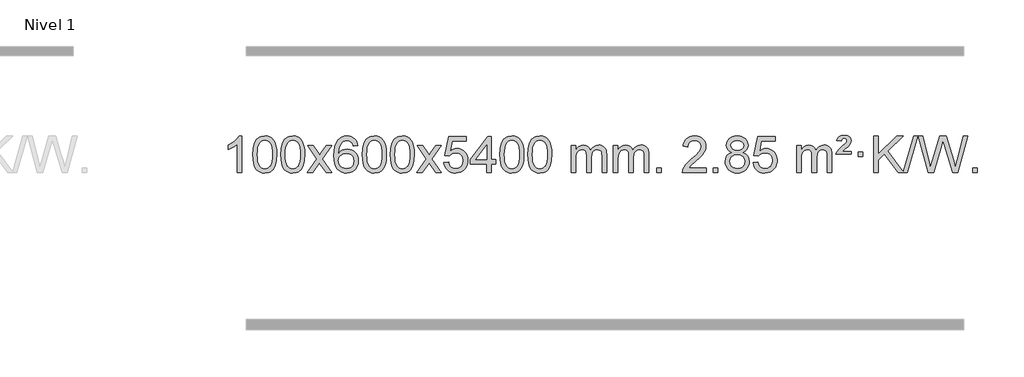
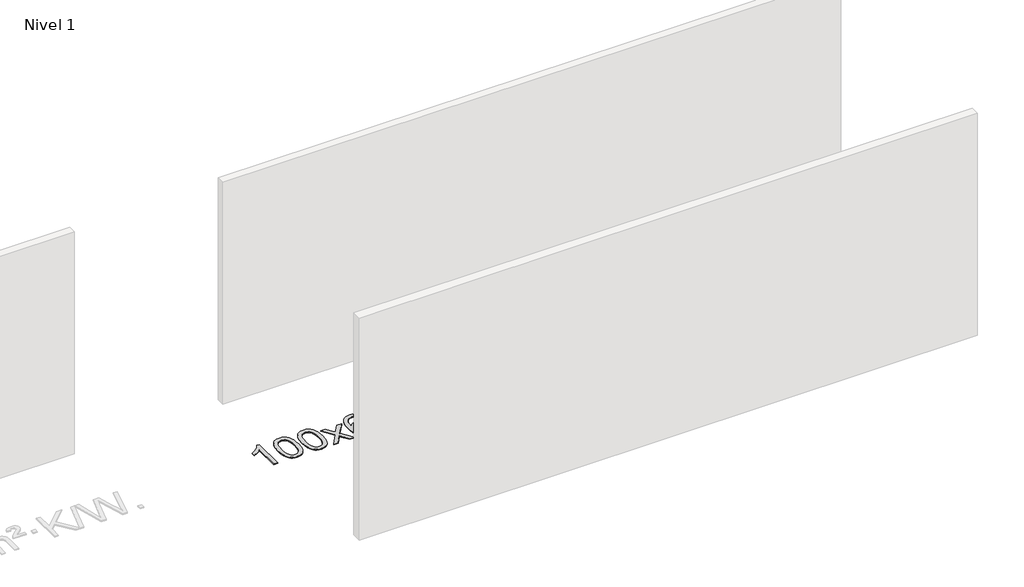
# One storey, part 7 of 12: 1 proxy.
"""IFC4 building model written with IfcOpenShell, lengths in millimetres."""

from ifc_helpers import new_model, si_unit, origin, origin_with_axes, place, context, project, spatial, polyline, outline, extrude, element, save

model = new_model("IFC4")

# Units and contexts
model_context = context("Model", 3, world=origin())
ifc_project = project(units=[si_unit("LENGTHUNIT", "METRE", prefix="MILLI")], contexts=[model_context])

# Site, building, storey
site = spatial("IfcSite", under=ifc_project)
building = spatial("IfcBuilding", under=site)
storey = spatial("IfcBuildingStorey", under=building, Name="Nivel 1", Elevation=0.0)

# Proxy
placement = place(None, origin())
element("IfcBuildingElementProxy", 1, Name="Texto de modelo 1", ObjectType="Texto de modelo 1", at=placement, inside=storey, context=model_context, shape_type="SweptSolid", body=[
    extrude(outline(polyline([(-1875.4615788, -9399.579453), (-1925.6897338, -9399.579453), (-1925.6897338, -9086.4382987), (-1946.6590076, -9103.3976587), (-1973.2691385, -9120.3324932), (-2026.146044, -9145.6918254), (-2026.146044, -9098.2105225), (-1986.6968314, -9076.7507395), (-1952.520594, -9051.219729), (-1925.5793692, -9024.0700378), (-1907.8351943, -8997.7542124), (-1875.4615788, -8997.7542124), (-1875.4615788, -9399.579453)])), origin_with_axes(), (0.0, 0.0, 1.0), 10.0),
    extrude(outline(polyline([(-1756.1697105, -9201.9041943), (-1752.4786278, -9137.5861588), (-1741.4053797, -9086.2911459), (-1723.0603309, -9047.2343407), (-1711.2022679, -9032.0009605), (-1697.5538459, -9019.6309284), (-1682.0690796, -9010.0598651), (-1664.7019837, -9003.2233914), (-1624.3208034, -8997.7542124), (-1593.3696649, -9000.991574), (-1565.6558879, -9010.7036586), (-1542.4793222, -9026.5103217), (-1525.1398175, -9048.0314184), (-1512.0432185, -9075.0830078), (-1501.5953698, -9107.4811488), (-1494.7527647, -9148.6226186), (-1492.4718963, -9201.9041943), (-1496.1261908, -9265.8543477), (-1507.0890743, -9317.0267333), (-1525.3237585, -9356.1203266), (-1537.1542303, -9371.3996922), (-1550.7934553, -9383.8341036), (-1566.2966157, -9393.4695462), (-1583.7188939, -9400.3520052), (-1624.3208034, -9405.8579724), (-1651.9855294, -9403.4667394), (-1676.5109958, -9396.2930405), (-1697.8972024, -9384.3368757), (-1716.1441494, -9367.5982449), (-1733.6553324, -9337.3399508), (-1746.1633202, -9299.6381776), (-1753.6681129, -9254.4929255), (-1756.1697105, -9201.9041943)]), holes=[polyline([(-1705.9415554, -9201.8060924), (-1704.4700274, -9245.4706195), (-1700.0554435, -9280.8148822), (-1692.6978036, -9307.8388804), (-1682.3971077, -9326.5426142), (-1669.9381708, -9339.2682656), (-1656.1058078, -9348.3580165), (-1640.9000186, -9353.8118671), (-1624.3208034, -9355.6298173), (-1607.7415881, -9353.8057357), (-1592.535799, -9348.3334911), (-1578.703436, -9339.2130833), (-1566.2444991, -9326.4445124), (-1555.9438032, -9307.7101217), (-1548.5861633, -9280.6922549), (-1544.1715794, -9245.3909118), (-1542.7000514, -9201.8060924), (-1544.1225284, -9159.2973278), (-1548.3899596, -9124.5753989), (-1555.5023448, -9097.6403055), (-1565.4596842, -9078.4920476), (-1577.7101546, -9065.1440625), (-1591.7019332, -9055.6097875), (-1607.4350198, -9049.8892225), (-1624.9094146, -9047.9823675), (-1641.4027907, -9049.6623619), (-1656.3510624, -9054.7023452), (-1669.7542298, -9063.1023175), (-1681.6122928, -9074.8622786), (-1692.2563452, -9095.708925), (-1699.8592397, -9123.8151094), (-1704.4209765, -9159.1808319), (-1705.9415554, -9201.8060924)])]), origin_with_axes(), (0.0, 0.0, 1.0), 10.0),
    extrude(outline(polyline([(-1448.5222606, -9201.9041943), (-1444.8311779, -9137.5861588), (-1433.7579299, -9086.2911459), (-1415.4128811, -9047.2343407), (-1403.5548181, -9032.0009605), (-1389.9063961, -9019.6309284), (-1374.4216298, -9010.0598651), (-1357.0545339, -9003.2233914), (-1316.6733536, -8997.7542124), (-1285.722215, -9000.991574), (-1258.0084381, -9010.7036586), (-1234.8318724, -9026.5103217), (-1217.4923677, -9048.0314184), (-1204.3957686, -9075.0830078), (-1193.94792, -9107.4811488), (-1187.1053149, -9148.6226186), (-1184.8244465, -9201.9041943), (-1188.478741, -9265.8543477), (-1199.4416244, -9317.0267333), (-1217.6763087, -9356.1203266), (-1229.5067805, -9371.3996922), (-1243.1460055, -9383.8341036), (-1258.6491659, -9393.4695462), (-1276.071444, -9400.3520052), (-1316.6733536, -9405.8579724), (-1344.3380796, -9403.4667394), (-1368.8635459, -9396.2930405), (-1390.2497526, -9384.3368757), (-1408.4966996, -9367.5982449), (-1426.0078825, -9337.3399508), (-1438.5158704, -9299.6381776), (-1446.0206631, -9254.4929255), (-1448.5222606, -9201.9041943)]), holes=[polyline([(-1398.2941056, -9201.8060924), (-1396.8225776, -9245.4706195), (-1392.4079936, -9280.8148822), (-1385.0503537, -9307.8388804), (-1374.7496579, -9326.5426142), (-1362.290721, -9339.2682656), (-1348.4583579, -9348.3580165), (-1333.2525688, -9353.8118671), (-1316.6733536, -9355.6298173), (-1300.0941383, -9353.8057357), (-1284.8883492, -9348.3334911), (-1271.0559862, -9339.2130833), (-1258.5970493, -9326.4445124), (-1248.2963534, -9307.7101217), (-1240.9387135, -9280.6922549), (-1236.5241295, -9245.3909118), (-1235.0526016, -9201.8060924), (-1236.4750786, -9159.2973278), (-1240.7425098, -9124.5753989), (-1247.854895, -9097.6403055), (-1257.8122343, -9078.4920476), (-1270.0627048, -9065.1440625), (-1284.0544833, -9055.6097875), (-1299.78757, -9049.8892225), (-1317.2619648, -9047.9823675), (-1333.7553409, -9049.6623619), (-1348.7036126, -9054.7023452), (-1362.10678, -9063.1023175), (-1373.9648429, -9074.8622786), (-1384.6088953, -9095.708925), (-1392.2117899, -9123.8151094), (-1396.7735266, -9159.1808319), (-1398.2941056, -9201.8060924)])]), origin_with_axes(), (0.0, 0.0, 1.0), 10.0),
    extrude(outline(polyline([(-1159.7103689, -9399.579453), (-1052.3869282, -9251.2494325), (-1153.4318496, -9104.4890419), (-1093.0011005, -9104.4890419), (-1044.2444734, -9175.122385), (-1021.4848406, -9208.4770192), (-1001.7663657, -9181.2047007), (-946.2407099, -9104.4890419), (-885.8099608, -9104.4890419), (-991.9561791, -9251.2494325), (-889.7340354, -9399.579453), (-950.1647845, -9399.579453), (-1011.6746541, -9310.4048574), (-1022.9563686, -9294.1199477), (-1099.2796199, -9399.579453), (-1159.7103689, -9399.579453)])), origin_with_axes(), (0.0, 0.0, 1.0), 10.0),
    extrude(outline(polyline([(-600.9221437, -9104.4890419), (-651.1502988, -9110.7675613), (-659.2437027, -9085.874213), (-670.1820607, -9068.8780648), (-692.9662189, -9053.2062918), (-720.5083176, -9047.9823675), (-743.8565616, -9051.0235253), (-765.8313794, -9060.1469988), (-784.7037258, -9079.3627017), (-800.1179814, -9105.8134171), (-810.5290419, -9143.227016), (-814.3918028, -9195.3313693), (-794.2441322, -9171.8237098), (-770.0988106, -9155.2567573), (-743.3047386, -9145.434308), (-715.2108169, -9142.1601582), (-691.077758, -9144.398107), (-668.8086346, -9151.1119534), (-648.4034466, -9162.3016975), (-629.862194, -9177.9673391), (-614.4540698, -9197.1769106), (-603.4482668, -9218.9984443), (-596.844785, -9243.4319401), (-594.6436244, -9270.4773982), (-598.7884282, -9306.4439945), (-611.2228396, -9339.786366), (-630.9167891, -9368.0642287), (-656.840207, -9388.8372987), (-687.815871, -9401.602804), (-722.6665587, -9405.8579724), (-752.6090874, -9403.0375437), (-779.6514797, -9394.5762579), (-803.7937357, -9380.4741147), (-825.0358552, -9360.7311143), (-842.3539001, -9334.5133908), (-854.7239322, -9300.9870783), (-862.1459515, -9260.1521768), (-864.6199579, -9212.0086864), (-861.8731057, -9158.0342663), (-853.632549, -9111.9693092), (-839.8982878, -9073.8138149), (-820.6703222, -9043.5677835), (-799.8298072, -9023.5243462), (-775.6660915, -9009.2076052), (-748.179175, -9000.6175606), (-717.3690579, -8997.7542124), (-694.2354118, -8999.5261773), (-673.2967949, -9004.8420722), (-654.5532073, -9013.7018969), (-638.0046489, -9026.1056515), (-624.0987094, -9041.6364031), (-613.2829788, -9059.8772186), (-605.5574569, -9080.8280983), (-600.9221437, -9104.4890419)]), holes=[polyline([(-814.3918028, -9269.6925832), (-811.485535, -9291.9494439), (-802.7667318, -9313.2007605), (-789.2286743, -9331.472233), (-771.8646442, -9344.7895612), (-750.9076332, -9352.9197533), (-726.5906333, -9355.6298173), (-693.4444655, -9350.0134855), (-679.5293291, -9342.9930708), (-667.3861575, -9333.1644901), (-657.5361171, -9320.9262824), (-650.500374, -9306.6769865), (-644.8717794, -9272.1451299), (-650.4267976, -9238.9989621), (-657.3705702, -9225.3781312), (-667.0918519, -9213.725469), (-679.2718117, -9204.3904634), (-693.5916183, -9197.7226022), (-728.6507725, -9192.3883133), (-761.7478893, -9197.7226022), (-789.4248781, -9213.725469), (-800.3479076, -9225.2248471), (-808.1500716, -9238.3858254), (-812.83137, -9253.2084042), (-814.3918028, -9269.6925832)])]), origin_with_axes(), (0.0, 0.0, 1.0), 10.0),
    extrude(outline(polyline([(-550.6939887, -9201.9041943), (-547.002906, -9137.5861588), (-535.9296579, -9086.2911459), (-517.5846091, -9047.2343407), (-505.7265461, -9032.0009605), (-492.0781241, -9019.6309284), (-476.5933578, -9010.0598651), (-459.2262619, -9003.2233914), (-418.8450816, -8997.7542124), (-387.8939431, -9000.991574), (-360.1801661, -9010.7036586), (-337.0036004, -9026.5103217), (-319.6640957, -9048.0314184), (-306.5674967, -9075.0830078), (-296.119648, -9107.4811488), (-289.2770429, -9148.6226186), (-286.9961745, -9201.9041943), (-290.650469, -9265.8543477), (-301.6133525, -9317.0267333), (-319.8480367, -9356.1203266), (-331.6785085, -9371.3996922), (-345.3177335, -9383.8341036), (-360.8208939, -9393.4695462), (-378.2431721, -9400.3520052), (-418.8450816, -9405.8579724), (-446.5098076, -9403.4667394), (-471.035274, -9396.2930405), (-492.4214806, -9384.3368757), (-510.6684276, -9367.5982449), (-528.1796106, -9337.3399508), (-540.6875984, -9299.6381776), (-548.1923911, -9254.4929255), (-550.6939887, -9201.9041943)]), holes=[polyline([(-500.4658336, -9201.8060924), (-498.9943056, -9245.4706195), (-494.5797217, -9280.8148822), (-487.2220818, -9307.8388804), (-476.9213859, -9326.5426142), (-464.462449, -9339.2682656), (-450.630086, -9348.3580165), (-435.4242968, -9353.8118671), (-418.8450816, -9355.6298173), (-402.2658663, -9353.8057357), (-387.0600772, -9348.3334911), (-373.2277142, -9339.2130833), (-360.7687773, -9326.4445124), (-350.4680814, -9307.7101217), (-343.1104415, -9280.6922549), (-338.6958576, -9245.3909118), (-337.2243296, -9201.8060924), (-338.6468066, -9159.2973278), (-342.9142378, -9124.5753989), (-350.026623, -9097.6403055), (-359.9839624, -9078.4920476), (-372.2344328, -9065.1440625), (-386.2262114, -9055.6097875), (-401.959298, -9049.8892225), (-419.4336928, -9047.9823675), (-435.9270689, -9049.6623619), (-450.8753406, -9054.7023452), (-464.278508, -9063.1023175), (-476.136571, -9074.8622786), (-486.7806234, -9095.708925), (-494.3835179, -9123.8151094), (-498.9452547, -9159.1808319), (-500.4658336, -9201.8060924)])]), origin_with_axes(), (0.0, 0.0, 1.0), 10.0),
    extrude(outline(polyline([(-243.0465388, -9201.9041943), (-239.3554561, -9137.5861588), (-228.2822081, -9086.2911459), (-209.9371593, -9047.2343407), (-198.0790963, -9032.0009605), (-184.4306743, -9019.6309284), (-168.945908, -9010.0598651), (-151.5788121, -9003.2233914), (-111.1976318, -8997.7542124), (-80.2464932, -9000.991574), (-52.5327163, -9010.7036586), (-29.3561506, -9026.5103217), (-12.0166459, -9048.0314184), (1.0799532, -9075.0830078), (11.5278018, -9107.4811488), (18.3704069, -9148.6226186), (20.6512753, -9201.9041943), (16.9969808, -9265.8543477), (6.0340974, -9317.0267333), (-12.2005869, -9356.1203266), (-24.0310587, -9371.3996922), (-37.6702837, -9383.8341036), (-53.1734441, -9393.4695462), (-70.5957222, -9400.3520052), (-111.1976318, -9405.8579724), (-138.8623578, -9403.4667394), (-163.3878241, -9396.2930405), (-184.7740308, -9384.3368757), (-203.0209778, -9367.5982449), (-220.5321607, -9337.3399508), (-233.0401486, -9299.6381776), (-240.5449413, -9254.4929255), (-243.0465388, -9201.9041943)]), holes=[polyline([(-192.8183838, -9201.8060924), (-191.3468558, -9245.4706195), (-186.9322718, -9280.8148822), (-179.5746319, -9307.8388804), (-169.2739361, -9326.5426142), (-156.8149992, -9339.2682656), (-142.9826361, -9348.3580165), (-127.776847, -9353.8118671), (-111.1976318, -9355.6298173), (-94.6184165, -9353.8057357), (-79.4126274, -9348.3334911), (-65.5802644, -9339.2130833), (-53.1213275, -9326.4445124), (-42.8206316, -9307.7101217), (-35.4629917, -9280.6922549), (-31.0484077, -9245.3909118), (-29.5768798, -9201.8060924), (-30.9993568, -9159.2973278), (-35.266788, -9124.5753989), (-42.3791732, -9097.6403055), (-52.3365125, -9078.4920476), (-64.586983, -9065.1440625), (-78.5787615, -9055.6097875), (-94.3118482, -9049.8892225), (-111.786243, -9047.9823675), (-128.2796191, -9049.6623619), (-143.2278908, -9054.7023452), (-156.6310582, -9063.1023175), (-168.4891211, -9074.8622786), (-179.1331735, -9095.708925), (-186.7360681, -9123.8151094), (-191.2978048, -9159.1808319), (-192.8183838, -9201.8060924)])]), origin_with_axes(), (0.0, 0.0, 1.0), 10.0),
    extrude(outline(polyline([(45.7653528, -9399.579453), (153.0887936, -9251.2494325), (52.0438722, -9104.4890419), (112.4746213, -9104.4890419), (161.2312484, -9175.122385), (183.9908812, -9208.4770192), (203.7093561, -9181.2047007), (259.2350119, -9104.4890419), (319.665761, -9104.4890419), (213.5195426, -9251.2494325), (315.7416864, -9399.579453), (255.3109373, -9399.579453), (193.8010677, -9310.4048574), (182.5193532, -9294.1199477), (106.1961019, -9399.579453), (45.7653528, -9399.579453)])), origin_with_axes(), (0.0, 0.0, 1.0), 10.0),
    extrude(outline(polyline([(347.1342833, -9292.8446235), (397.3624384, -9286.5661041), (406.5840137, -9316.7201649), (422.6727196, -9338.3148381), (445.5549797, -9351.3010725), (475.1572176, -9355.6298173), (494.2870814, -9354.1245668), (511.1606022, -9349.6088153), (525.7777802, -9342.0825628), (538.1386152, -9331.5458094), (547.9671958, -9318.519721), (554.9876106, -9303.5254641), (560.6039424, -9267.6324441), (555.3432298, -9233.8363514), (548.7673392, -9219.9181493), (539.5610922, -9207.9865099), (527.6938322, -9198.4154467), (513.1349023, -9191.5789729), (475.9420325, -9186.1097939), (451.5759817, -9188.2925604), (431.8452441, -9194.8408599), (416.0876319, -9204.8717757), (403.6409578, -9217.5023908), (353.4128027, -9211.2238715), (397.3624384, -9004.0327318), (591.9965393, -9004.0327318), (591.9965393, -9054.2608869), (437.9766106, -9054.2608869), (416.4923021, -9164.919791), (434.2180829, -9152.2155994), (452.3730594, -9143.1411769), (470.9572315, -9137.6965234), (489.9705993, -9135.8816388), (514.4316863, -9138.1318504), (536.9000791, -9144.882485), (557.3757779, -9156.1335427), (575.8587824, -9171.8850234), (591.1596077, -9191.1743027), (602.0887687, -9213.038756), (608.6462652, -9237.4783832), (610.8320974, -9264.4931844), (608.8639288, -9290.5147042), (602.9594227, -9314.7213394), (593.1185794, -9337.1130902), (579.3413987, -9357.6899565), (558.4702268, -9378.7634634), (534.1164387, -9393.8159684), (506.2800344, -9402.8474714), (474.9610139, -9405.8579724), (449.0406616, -9403.9235262), (425.6280383, -9398.1201877), (404.723144, -9388.447957), (386.3259785, -9374.9068338), (371.0190218, -9358.1712688), (359.3847537, -9338.915712), (351.4231742, -9317.1401636), (347.1342833, -9292.8446235)])), origin_with_axes(), (0.0, 0.0, 1.0), 10.0),
    extrude(outline(polyline([(818.0232371, -9399.579453), (818.0232371, -9305.4016622), (635.946175, -9305.4016622), (635.946175, -9255.1735072), (830.5802759, -9004.0327318), (868.2513922, -9004.0327318), (868.2513922, -9255.1735072), (918.4795473, -9255.1735072), (918.4795473, -9305.4016622), (868.2513922, -9305.4016622), (868.2513922, -9399.579453), (818.0232371, -9399.579453)]), holes=[polyline([(818.0232371, -9255.1735072), (818.0232371, -9099.9763561), (697.7503502, -9255.1735072), (818.0232371, -9255.1735072)])]), origin_with_axes(), (0.0, 0.0, 1.0), 10.0),
    extrude(outline(polyline([(962.429183, -9201.9041943), (966.1202656, -9137.5861588), (977.1935137, -9086.2911459), (995.5385625, -9047.2343407), (1007.3966255, -9032.0009605), (1021.0450475, -9019.6309284), (1036.5298138, -9010.0598651), (1053.8969097, -9003.2233914), (1094.27809, -8997.7542124), (1125.2292286, -9000.991574), (1152.9430055, -9010.7036586), (1176.1195712, -9026.5103217), (1193.4590759, -9048.0314184), (1206.555675, -9075.0830078), (1217.0035236, -9107.4811488), (1223.8461287, -9148.6226186), (1226.1269971, -9201.9041943), (1222.4727026, -9265.8543477), (1211.5098192, -9317.0267333), (1193.2751349, -9356.1203266), (1181.4446631, -9371.3996922), (1167.8054381, -9383.8341036), (1152.3022777, -9393.4695462), (1134.8799996, -9400.3520052), (1094.27809, -9405.8579724), (1066.613364, -9403.4667394), (1042.0878976, -9396.2930405), (1020.701691, -9384.3368757), (1002.454744, -9367.5982449), (984.9435611, -9337.3399508), (972.4355732, -9299.6381776), (964.9307805, -9254.4929255), (962.429183, -9201.9041943)]), holes=[polyline([(1012.657338, -9201.8060924), (1014.128866, -9245.4706195), (1018.54345, -9280.8148822), (1025.9010899, -9307.8388804), (1036.2017857, -9326.5426142), (1048.6607226, -9339.2682656), (1062.4930856, -9348.3580165), (1077.6988748, -9353.8118671), (1094.27809, -9355.6298173), (1110.8573053, -9353.8057357), (1126.0630944, -9348.3334911), (1139.8954574, -9339.2130833), (1152.3543943, -9326.4445124), (1162.6550902, -9307.7101217), (1170.0127301, -9280.6922549), (1174.427314, -9245.3909118), (1175.898842, -9201.8060924), (1174.476365, -9159.2973278), (1170.2089338, -9124.5753989), (1163.0965486, -9097.6403055), (1153.1392093, -9078.4920476), (1140.8887388, -9065.1440625), (1126.8969603, -9055.6097875), (1111.1638736, -9049.8892225), (1093.6894788, -9047.9823675), (1077.1961027, -9049.6623619), (1062.247831, -9054.7023452), (1048.8446636, -9063.1023175), (1036.9866007, -9074.8622786), (1026.3425483, -9095.708925), (1018.7396537, -9123.8151094), (1014.1779169, -9159.1808319), (1012.657338, -9201.8060924)])]), origin_with_axes(), (0.0, 0.0, 1.0), 10.0),
    extrude(outline(polyline([(1270.0766328, -9201.9041943), (1273.7677155, -9137.5861588), (1284.8409635, -9086.2911459), (1303.1860124, -9047.2343407), (1315.0440753, -9032.0009605), (1328.6924974, -9019.6309284), (1344.1772637, -9010.0598651), (1361.5443595, -9003.2233914), (1401.9255399, -8997.7542124), (1432.8766784, -9000.991574), (1460.5904554, -9010.7036586), (1483.7670211, -9026.5103217), (1501.1065258, -9048.0314184), (1514.2031248, -9075.0830078), (1524.6509735, -9107.4811488), (1531.4935786, -9148.6226186), (1533.7744469, -9201.9041943), (1530.1201525, -9265.8543477), (1519.157269, -9317.0267333), (1500.9225848, -9356.1203266), (1489.0921129, -9371.3996922), (1475.452888, -9383.8341036), (1459.9497276, -9393.4695462), (1442.5274494, -9400.3520052), (1401.9255399, -9405.8579724), (1374.2608138, -9403.4667394), (1349.7353475, -9396.2930405), (1328.3491408, -9384.3368757), (1310.1021939, -9367.5982449), (1292.5910109, -9337.3399508), (1280.0830231, -9299.6381776), (1272.5782304, -9254.4929255), (1270.0766328, -9201.9041943)]), holes=[polyline([(1320.3047879, -9201.8060924), (1321.7763158, -9245.4706195), (1326.1908998, -9280.8148822), (1333.5485397, -9307.8388804), (1343.8492356, -9326.5426142), (1356.3081725, -9339.2682656), (1370.1405355, -9348.3580165), (1385.3463246, -9353.8118671), (1401.9255399, -9355.6298173), (1418.5047551, -9353.8057357), (1433.7105442, -9348.3334911), (1447.5429073, -9339.2130833), (1460.0018442, -9326.4445124), (1470.30254, -9307.7101217), (1477.6601799, -9280.6922549), (1482.0747639, -9245.3909118), (1483.5462919, -9201.8060924), (1482.1238148, -9159.2973278), (1477.8563837, -9124.5753989), (1470.7439984, -9097.6403055), (1460.7866591, -9078.4920476), (1448.5361887, -9065.1440625), (1434.5444101, -9055.6097875), (1418.8113234, -9049.8892225), (1401.3369287, -9047.9823675), (1384.8435526, -9049.6623619), (1369.8952808, -9054.7023452), (1356.4921135, -9063.1023175), (1344.6340505, -9074.8622786), (1333.9899981, -9095.708925), (1326.3871035, -9123.8151094), (1321.8253668, -9159.1808319), (1320.3047879, -9201.8060924)])]), origin_with_axes(), (0.0, 0.0, 1.0), 10.0),
    extrude(outline(polyline([(1747.244106, -9399.579453), (1747.244106, -9104.4890419), (1797.4722611, -9104.4890419), (1797.4722611, -9153.0494653), (1812.5799483, -9130.7435537), (1832.0041177, -9113.2691589), (1855.0825815, -9101.9751816), (1881.1531522, -9098.2105225), (1909.0876584, -9102.048758), (1931.4794092, -9113.5634645), (1948.2057772, -9131.9943524), (1959.1441352, -9156.5811324), (1977.4523959, -9131.0439906), (1998.3358304, -9112.803175), (2021.794439, -9101.8586857), (2047.8282215, -9098.2105225), (2067.9360383, -9099.7280358), (2085.585177, -9104.2805755), (2100.7756377, -9111.8681416), (2113.5074204, -9122.4907342), (2123.5720587, -9136.2709806), (2130.761086, -9153.3315082), (2135.0745024, -9173.6723168), (2136.5123078, -9197.2934066), (2136.5123078, -9399.579453), (2086.2841528, -9399.579453), (2086.2841528, -9218.875817), (2085.1191931, -9193.8230531), (2081.6243142, -9176.9372695), (2075.0760146, -9165.3735121), (2064.7507933, -9156.2868268), (2051.4702533, -9150.4007149), (2036.0559977, -9148.4386776), (2008.8449928, -9153.4663982), (1986.6617085, -9168.54956), (1978.0563355, -9180.1194488), (1971.9096405, -9194.7182326), (1966.9922845, -9233.0024856), (1966.9922845, -9399.579453), (1916.7641294, -9399.579453), (1916.7641294, -9213.2840106), (1913.8578616, -9184.8835206), (1905.1390583, -9164.6254854), (1889.7983791, -9152.4853796), (1867.0264836, -9148.4386776), (1847.6758907, -9151.1364789), (1829.8458767, -9159.2298828), (1815.1305968, -9172.5226856), (1805.1242066, -9190.8186835), (1799.3852475, -9216.2025411), (1797.4722611, -9250.7589232), (1797.4722611, -9399.579453), (1747.244106, -9399.579453)])), origin_with_axes(), (0.0, 0.0, 1.0), 10.0),
    extrude(outline(polyline([(2211.8545404, -9399.579453), (2211.8545404, -9104.4890419), (2262.0826955, -9104.4890419), (2262.0826955, -9153.0494653), (2277.1903828, -9130.7435537), (2296.6145521, -9113.2691589), (2319.693016, -9101.9751816), (2345.7635867, -9098.2105225), (2373.6980929, -9102.048758), (2396.0898436, -9113.5634645), (2412.8162117, -9131.9943524), (2423.7545697, -9156.5811324), (2442.0628303, -9131.0439906), (2462.9462649, -9112.803175), (2486.4048734, -9101.8586857), (2512.438656, -9098.2105225), (2532.5464727, -9099.7280358), (2550.1956114, -9104.2805755), (2565.3860721, -9111.8681416), (2578.1178548, -9122.4907342), (2588.1824931, -9136.2709806), (2595.3715204, -9153.3315082), (2599.6849368, -9173.6723168), (2601.1227423, -9197.2934066), (2601.1227423, -9399.579453), (2550.8945872, -9399.579453), (2550.8945872, -9218.875817), (2549.7296276, -9193.8230531), (2546.2347486, -9176.9372695), (2539.6864491, -9165.3735121), (2529.3612278, -9156.2868268), (2516.0806877, -9150.4007149), (2500.6664321, -9148.4386776), (2473.4554272, -9153.4663982), (2451.2721429, -9168.54956), (2442.6667699, -9180.1194488), (2436.5200749, -9194.7182326), (2431.6027189, -9233.0024856), (2431.6027189, -9399.579453), (2381.3745638, -9399.579453), (2381.3745638, -9213.2840106), (2378.4682961, -9184.8835206), (2369.7494928, -9164.6254854), (2354.4088136, -9152.4853796), (2331.6369181, -9148.4386776), (2312.2863251, -9151.1364789), (2294.4563111, -9159.2298828), (2279.7410313, -9172.5226856), (2269.734641, -9190.8186835), (2263.9956819, -9216.2025411), (2262.0826955, -9250.7589232), (2262.0826955, -9399.579453), (2211.8545404, -9399.579453)])), origin_with_axes(), (0.0, 0.0, 1.0), 10.0),
    extrude(outline(polyline([(2689.0220137, -9399.579453), (2689.0220137, -9349.3512979), (2739.2501687, -9349.3512979), (2739.2501687, -9399.579453), (2689.0220137, -9399.579453)])), origin_with_axes(), (0.0, 0.0, 1.0), 10.0),
    extrude(outline(polyline([(3235.2532001, -9349.3512979), (3235.2532001, -9399.579453), (2971.555386, -9399.579453), (2972.6590319, -9381.8965918), (2976.9509885, -9364.9494945), (2989.3363491, -9337.8856424), (3007.4606687, -9311.6311307), (3033.6783922, -9284.1503456), (3070.3439644, -9253.4076736), (3124.545245, -9205.2641831), (3157.0660134, -9169.7267824), (3173.3263976, -9140.884834), (3178.7465256, -9112.8277005), (3173.6329659, -9087.6768347), (3158.2922867, -9066.7688747), (3134.7110508, -9052.6789943), (3104.875821, -9047.9823675), (3073.5445377, -9052.5686297), (3049.2030124, -9066.3274163), (3033.4944512, -9088.1796068), (3028.0620604, -9117.0460807), (2977.8339053, -9110.7675613), (2982.1534531, -9084.838012), (2990.0107994, -9062.1826125), (3001.4059442, -9042.8013627), (3016.3388875, -9026.6942627), (3034.4662728, -9014.0329907), (3055.4447436, -9004.989225), (3079.2742998, -8999.5629655), (3105.9549415, -8997.7542124), (3132.8747065, -8999.7653006), (3156.8330215, -9005.7985654), (3177.8298863, -9015.8540066), (3195.8653011, -9029.9316242), (3210.3506547, -9046.9890861), (3220.6973358, -9065.9840598), (3226.9053445, -9086.9165453), (3228.9746807, -9109.7865427), (3226.7428633, -9133.8092369), (3220.047411, -9157.4149983), (3208.1648225, -9181.4254299), (3190.3715967, -9206.6621347), (3162.0078949, -9236.7916701), (3118.4138784, -9275.4805933), (3060.6318797, -9323.795762), (3037.9703488, -9349.3512979), (3235.2532001, -9349.3512979)])), origin_with_axes(), (0.0, 0.0, 1.0), 10.0),
    extrude(outline(polyline([(3310.5954327, -9399.579453), (3310.5954327, -9349.3512979), (3360.8235878, -9349.3512979), (3360.8235878, -9399.579453), (3310.5954327, -9399.579453)])), origin_with_axes(), (0.0, 0.0, 1.0), 10.0),
    extrude(outline(polyline([(3515.6283314, -9178.2616447), (3488.7361575, -9165.0178929), (3469.8638112, -9147.0652515), (3458.7169867, -9124.7716026), (3455.0013785, -9098.5048281), (3457.0247295, -9078.0199324), (3463.0947824, -9059.2395565), (3473.2115373, -9042.1637006), (3487.3749941, -9026.7923645), (3504.9045712, -9014.088173), (3525.1196868, -9005.0137504), (3548.020341, -8999.5690969), (3573.6065338, -8997.7542124), (3599.3153539, -8999.6120165), (3622.3876864, -9005.1854287), (3642.8235312, -9014.4744491), (3660.6228884, -9027.4790776), (3675.0438626, -9043.1508506), (3685.3445585, -9060.4413044), (3691.524976, -9079.3504389), (3693.5851152, -9099.8782543), (3689.9185579, -9125.2989001), (3678.9188863, -9147.2124043), (3660.4634729, -9165.0546811), (3634.4296903, -9178.2616447), (3665.3440407, -9194.1909351), (3687.846156, -9217.6495436), (3701.5681544, -9247.5092989), (3706.1421539, -9282.6420295), (3703.8735483, -9307.6947933), (3697.0677314, -9330.6628926), (3685.7247032, -9351.5463272), (3669.8444637, -9370.3450971), (3650.2608789, -9385.88198), (3627.8078144, -9396.9797536), (3602.4852704, -9403.6384177), (3574.2932469, -9405.8579724), (3546.1012233, -9403.6292206), (3520.7786793, -9396.9429654), (3498.3256148, -9385.7992066), (3478.74203, -9370.1979443), (3462.8617905, -9351.26735), (3451.5187623, -9330.135595), (3444.7129454, -9306.8026795), (3442.4443398, -9281.2686033), (3447.2022803, -9244.7747094), (3461.4761017, -9214.7555386), (3484.53004, -9192.2411605), (3515.6283314, -9178.2616447)]), holes=[polyline([(3505.2295336, -9099.9763561), (3509.6809058, -9121.902123), (3523.0350222, -9139.413306), (3544.8994754, -9150.8912243), (3574.881858, -9154.717197), (3604.1652649, -9150.9157497), (3625.6986243, -9139.5114079), (3638.9423761, -9122.5888361), (3643.3569601, -9102.232699), (3638.7952233, -9081.1040098), (3625.1100131, -9063.629615), (3603.2823481, -9051.8941794), (3574.2932469, -9047.9823675), (3545.1202046, -9051.8083402), (3523.3293278, -9063.2862585), (3509.7544822, -9080.1107284), (3505.2295336, -9099.9763561)]), polyline([(3492.6724949, -9279.5027698), (3494.7694222, -9298.7184726), (3501.0602043, -9317.3210389), (3512.6730127, -9333.5446349), (3530.7360186, -9345.623427), (3552.3674799, -9353.1282197), (3574.6856543, -9355.6298173), (3608.8741544, -9350.3691048), (3622.7678311, -9343.7932141), (3634.5277922, -9334.5869672), (3650.5674472, -9310.6869002), (3655.9139988, -9281.0723996), (3650.3957689, -9250.9551269), (3633.8410791, -9226.5277625), (3621.762287, -9217.0854579), (3607.5988301, -9210.3409547), (3573.0179226, -9204.9453521), (3539.3076691, -9210.2673783), (3525.5703423, -9216.919911), (3513.9115487, -9226.2334569), (3497.9822583, -9250.1948375), (3492.6724949, -9279.5027698)])]), origin_with_axes(), (0.0, 0.0, 1.0), 10.0),
    extrude(outline(polyline([(3750.0917896, -9292.8446235), (3800.3199447, -9286.5661041), (3809.54152, -9316.7201649), (3825.630226, -9338.3148381), (3848.5124861, -9351.3010725), (3878.1147239, -9355.6298173), (3897.2445877, -9354.1245668), (3914.1181085, -9349.6088153), (3928.7352865, -9342.0825628), (3941.0961215, -9331.5458094), (3950.9247021, -9318.519721), (3957.9451169, -9303.5254641), (3963.5614487, -9267.6324441), (3958.3007361, -9233.8363514), (3951.7248455, -9219.9181493), (3942.5185986, -9207.9865099), (3930.6513385, -9198.4154467), (3916.0924086, -9191.5789729), (3878.8995389, -9186.1097939), (3854.533488, -9188.2925604), (3834.8027504, -9194.8408599), (3819.0451382, -9204.8717757), (3806.5984641, -9217.5023908), (3756.370309, -9211.2238715), (3800.3199447, -9004.0327318), (3994.9540456, -9004.0327318), (3994.9540456, -9054.2608869), (3840.934117, -9054.2608869), (3819.4498084, -9164.919791), (3837.1755892, -9152.2155994), (3855.3305657, -9143.1411769), (3873.9147378, -9137.6965234), (3892.9281056, -9135.8816388), (3917.3891926, -9138.1318504), (3939.8575855, -9144.882485), (3960.3332842, -9156.1335427), (3978.8162887, -9171.8850234), (3994.1171141, -9191.1743027), (4005.046275, -9213.038756), (4011.6037716, -9237.4783832), (4013.7896038, -9264.4931844), (4011.8214351, -9290.5147042), (4005.9169291, -9314.7213394), (3996.0760857, -9337.1130902), (3982.298905, -9357.6899565), (3961.4277331, -9378.7634634), (3937.073945, -9393.8159684), (3909.2375407, -9402.8474714), (3877.9185202, -9405.8579724), (3851.998168, -9403.9235262), (3828.5855447, -9398.1201877), (3807.6806503, -9388.447957), (3789.2834848, -9374.9068338), (3773.9765281, -9358.1712688), (3762.3422601, -9338.915712), (3754.3806805, -9317.1401636), (3750.0917896, -9292.8446235)])), origin_with_axes(), (0.0, 0.0, 1.0), 10.0),
    extrude(outline(polyline([(4227.2592628, -9399.579453), (4227.2592628, -9104.4890419), (4277.4874179, -9104.4890419), (4277.4874179, -9153.0494653), (4292.5951052, -9130.7435537), (4312.0192745, -9113.2691589), (4335.0977383, -9101.9751816), (4361.1683091, -9098.2105225), (4389.1028152, -9102.048758), (4411.494566, -9113.5634645), (4428.2209341, -9131.9943524), (4439.159292, -9156.5811324), (4457.4675527, -9131.0439906), (4478.3509873, -9112.803175), (4501.8095958, -9101.8586857), (4527.8433783, -9098.2105225), (4547.9511951, -9099.7280358), (4565.6003338, -9104.2805755), (4580.7907945, -9111.8681416), (4593.5225772, -9122.4907342), (4603.5872155, -9136.2709806), (4610.7762428, -9153.3315082), (4615.0896592, -9173.6723168), (4616.5274647, -9197.2934066), (4616.5274647, -9399.579453), (4566.2993096, -9399.579453), (4566.2993096, -9218.875817), (4565.1343499, -9193.8230531), (4561.639471, -9176.9372695), (4555.0911715, -9165.3735121), (4544.7659501, -9156.2868268), (4531.4854101, -9150.4007149), (4516.0711545, -9148.4386776), (4488.8601496, -9153.4663982), (4466.6768653, -9168.54956), (4458.0714923, -9180.1194488), (4451.9247973, -9194.7182326), (4447.0074413, -9233.0024856), (4447.0074413, -9399.579453), (4396.7792862, -9399.579453), (4396.7792862, -9213.2840106), (4393.8730184, -9184.8835206), (4385.1542152, -9164.6254854), (4369.813536, -9152.4853796), (4347.0416405, -9148.4386776), (4327.6910475, -9151.1364789), (4309.8610335, -9159.2298828), (4295.1457537, -9172.5226856), (4285.1393634, -9190.8186835), (4279.4004043, -9216.2025411), (4277.4874179, -9250.7589232), (4277.4874179, -9399.579453), (4227.2592628, -9399.579453)])), origin_with_axes(), (0.0, 0.0, 1.0), 10.0),
    extrude(outline(polyline([(4660.4771003, -9198.6668327), (4664.3030731, -9182.8479069), (4672.6417317, -9166.9799302), (4694.1505656, -9141.8413272), (4726.1072483, -9114.1030247), (4770.2530877, -9076.726214), (4777.3899984, -9065.1992448), (4779.7689686, -9053.3779701), (4777.8805077, -9041.2869152), (4772.215125, -9031.5012541), (4762.8463969, -9025.026531), (4749.8478997, -9022.8682899), (4737.4134883, -9024.4869707), (4728.5597949, -9029.343013), (4722.1341227, -9038.8098431), (4716.9837748, -9054.2608869), (4666.7556197, -9047.9823675), (4677.5958759, -9022.7701881), (4694.224142, -9005.2099542), (4717.9893189, -8994.9092583), (4750.2403072, -8991.475693), (4786.0229626, -8995.6082341), (4810.7691581, -9008.0058573), (4825.1901323, -9026.3386434), (4829.9971237, -9048.2766731), (4825.9013708, -9071.1834586), (4813.6141122, -9092.8149199), (4793.0862969, -9112.6314968), (4756.6169284, -9140.6886303), (4731.0123416, -9167.2742358), (4829.9971237, -9167.2742358), (4829.9971237, -9198.6668327), (4660.4771003, -9198.6668327)])), origin_with_axes(), (0.0, 0.0, 1.0), 10.0),
    extrude(outline(polyline([(4905.3393563, -9223.7809102), (4905.3393563, -9173.5527552), (4955.5675114, -9173.5527552), (4955.5675114, -9223.7809102), (4905.3393563, -9223.7809102)])), origin_with_axes(), (0.0, 0.0, 1.0), 10.0),
    extrude(outline(polyline([(5346.2091394, -9399.579453), (5192.7778219, -9196.9009991), (5125.0875348, -9261.4520265), (5125.0875348, -9399.579453), (5074.8593797, -9399.579453), (5074.8593797, -8997.7542124), (5125.0875348, -8997.7542124), (5125.0875348, -9194.4484525), (5331.1014521, -8997.7542124), (5401.3423877, -8997.7542124), (5228.388799, -9162.9577537), (5403.0424089, -9393.5349332), (5514.3557366, -8997.7542124), (5559.6787984, -8997.7542124), (5446.6654495, -9399.579453), (5407.6209071, -9399.579453), (5401.3423877, -9399.579453), (5346.2091394, -9399.579453)])), origin_with_axes(), (0.0, 0.0, 1.0), 10.0),
    extrude(outline(polyline([(5674.1636753, -9399.579453), (5564.5838917, -8997.7542124), (5616.3816766, -8997.7542124), (5679.9516854, -9261.844434), (5699.5720585, -9343.3670841), (5720.5658576, -9271.2622131), (5800.2245723, -8997.7542124), (5874.8800919, -8997.7542124), (5932.7601925, -9196.0180823), (5957.5554389, -9269.5944814), (5975.8269114, -9343.3670841), (5994.8586732, -9264.1988788), (6059.0172932, -8997.7542124), (6110.8150781, -8997.7542124), (6001.1371926, -9399.579453), (5947.4754723, -9399.579453), (5851.1394405, -9089.5775584), (5837.6994849, -9046.3146358), (5822.5917976, -9098.4067263), (5734.7906281, -9399.579453), (5674.1636753, -9399.579453)])), origin_with_axes(), (0.0, 0.0, 1.0), 10.0),
    extrude(outline(polyline([(6167.3217526, -9399.579453), (6167.3217526, -9349.3512979), (6217.5499077, -9349.3512979), (6217.5499077, -9399.579453), (6167.3217526, -9399.579453)])), origin_with_axes(), (0.0, 0.0, 1.0), 10.0),
])

save(model, "model.ifc")
